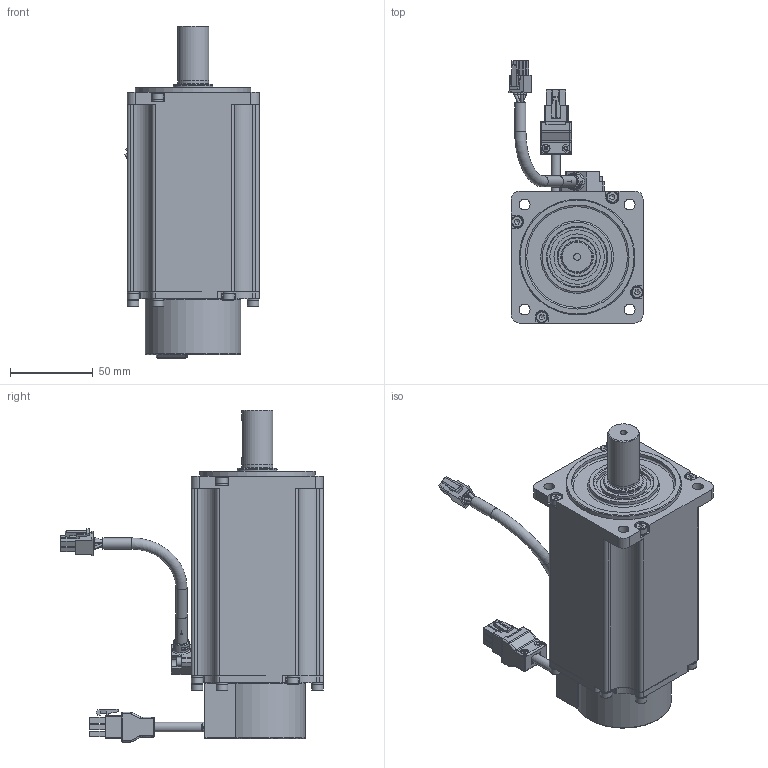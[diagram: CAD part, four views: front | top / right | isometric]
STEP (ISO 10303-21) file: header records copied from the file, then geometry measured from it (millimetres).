
FILE_DESCRIPTION(/* description */ (''),/* implementation_level */ '2;1');
FILE_NAME(/* name */ 'C:\Users\11755\Desktop\SME(磁編)\SME(磁編)_馬達外型圖(客戶版)\3D-STP\SME-L100(磁編).stp',/* time_stamp */ '2021-08-02T11:31:24+08:00',/* author */ ('11755'),/* organization */ (''),/* preprocessor_version */ 'ST-DEVELOPER v17',/* originating_system */ 'Autodesk Inventor 2019',/* authorisation */ '');
FILE_SCHEMA (('AUTOMOTIVE_DESIGN { 1 0 10303 214 3 1 1 }'));
Products named in the file (1): SME-L100(磁編)_20201202_Shrinkwrap_1
Bounding box: 81.31 x 159.11 x 201.2 mm (x, y, z)
Volume: 829011.7 mm3; surface area: 79795.2 mm2
Topology: 4 solids, 5 shells, 1467 faces, 4023 edges, 2614 vertices
Faces by surface type: plane 901, cylinder 298, cone 85, bspline 82, torus 65, sphere 36
Full cylindrical faces by diameter (mm): 1.2 x4, 1.5 x4, 1.6 x4, 2 x4, 2.6 x9, 3 x2, 4.2 x1, 5 x2, 5.32 x2, 5.5 x4, 5.8 x1, 6.1 x1, 6.6 x4, 6.8 x2, 6.9 x12, 7 x12, 7.2 x1, 9.6 x1, 18.8 x1, 19 x1, 23.8 x1, 24 x1, 28 x1, 33 x1, 42 x1, 63 x1, 70 x1
Entity records: 55504 total; most frequent: CARTESIAN_POINT 17091, ORIENTED_EDGE 7958, DIRECTION 7481, EDGE_CURVE 3980, VERTEX_POINT 2611, AXIS2_PLACEMENT_3D 2549, LINE 2383, VECTOR 2383
